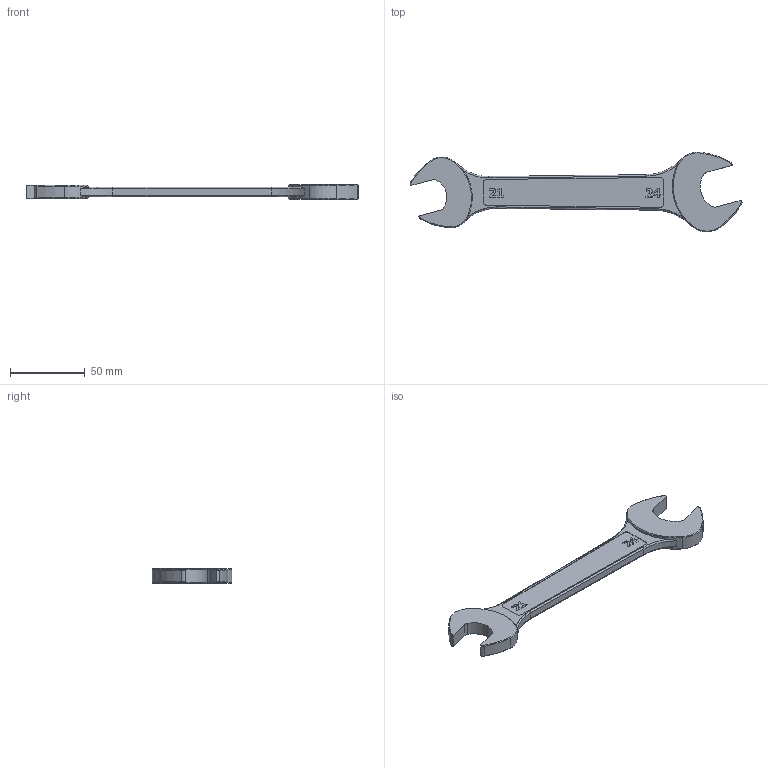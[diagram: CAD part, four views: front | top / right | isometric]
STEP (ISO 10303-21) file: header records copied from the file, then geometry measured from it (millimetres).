
FILE_DESCRIPTION(/* description */ (''),/* implementation_level */ '2;1');
FILE_NAME(/* name */ 'C:\Users\D\Documents\Inventor\各種小物\JIS\02-分解工具\両口スパナ\投稿用\21-24※.stp',/* time_stamp */ '2022-04-20T16:29:45+09:00',/* author */ ('D'),/* organization */ (''),/* preprocessor_version */ 'ST-DEVELOPER v18',/* originating_system */ 'Autodesk Inventor 2020',/* authorisation */ '');
FILE_SCHEMA (('AUTOMOTIVE_DESIGN { 1 0 10303 214 3 1 1 }'));
Length unit declared in the file: millimetre
Products named in the file (1): 17-19
Bounding box: 221.47 x 53.21 x 10 mm (x, y, z)
Volume: 42710 mm3; surface area: 15828.3 mm2
Topology: 1 solids, 1 shells, 146 faces, 382 edges, 244 vertices
Faces by surface type: plane 58, cylinder 32, cone 28, bspline 20, torus 8
Entity records: 4712 total; most frequent: CARTESIAN_POINT 1148, ORIENTED_EDGE 764, DIRECTION 692, EDGE_CURVE 382, VERTEX_POINT 244, AXIS2_PLACEMENT_3D 233, LINE 226, VECTOR 226
